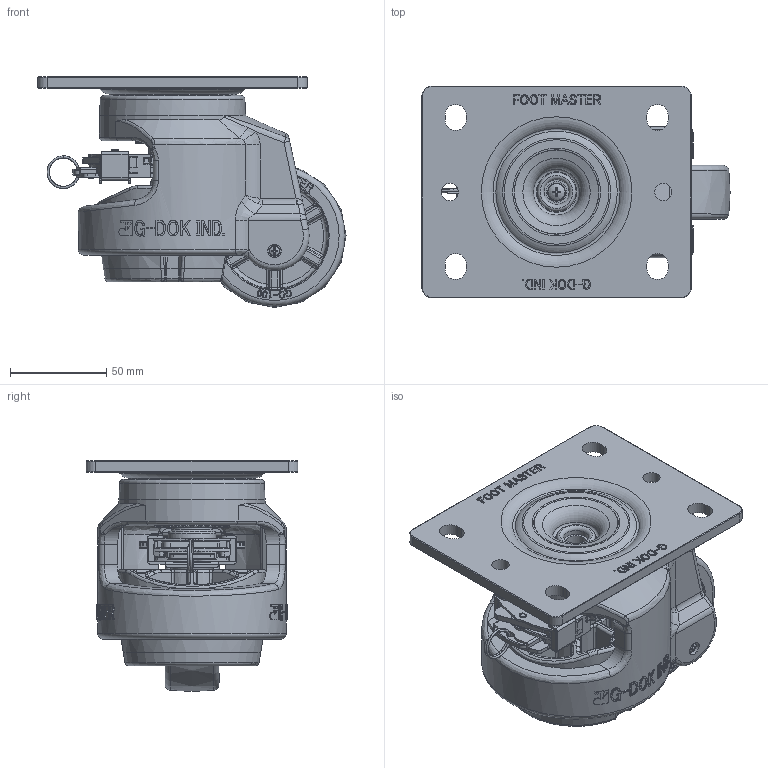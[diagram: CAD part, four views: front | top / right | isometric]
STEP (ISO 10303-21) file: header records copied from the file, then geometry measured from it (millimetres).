
FILE_DESCRIPTION(/* description */ (''),/* implementation_level */ '2;1');
FILE_NAME(/* name */ '\\192.168.10.38\지덕공유\1.기술연구소\2.연구개발 진행중\119.GDR-100 개발건_2025.01.23\3d\홈페이지용\1\2\2.GDR-100-F-NYN-PEU_Shrinkwrap_1.stp',/* time_stamp */ '2025-08-14T19:15:59+09:00',/* author */ ('admin'),/* organization */ (''),/* preprocessor_version */ 'ST-DEVELOPER v18.1',/* originating_system */ 'Autodesk Inventor 2021',/* authorisation */ '');
FILE_SCHEMA (('AUTOMOTIVE_DESIGN { 1 0 10303 214 3 1 1 }'));
Length unit declared in the file: millimetre
Products named in the file (1): 2.GDR-100-F-NYN-PEU_Shrinkwrap_1
Bounding box: 160.2 x 110 x 120.04 mm (x, y, z)
Volume: 639648 mm3; surface area: 150626.1 mm2
Topology: 3 solids, 16 shells, 4051 faces, 10270 edges, 6346 vertices
Faces by surface type: plane 1249, bspline 1245, cylinder 861, torus 335, cone 192, sphere 169
Full cylindrical faces by diameter (mm): 2 x8, 2.3 x6, 2.5 x2, 2.7 x4, 2.9 x2, 3 x2, 3.5 x2, 4 x9, 4.3 x2, 5.5 x2, 6.9 x2, 9 x2, 10.7 x1, 12 x1, 13 x1, 20 x3, 21.249 x2, 39 x1, 49.452 x1, 66.094 x1
Entity records: 152462 total; most frequent: CARTESIAN_POINT 57448, ORIENTED_EDGE 20458, DIRECTION 16909, EDGE_CURVE 10229, AXIS2_PLACEMENT_3D 6403, VERTEX_POINT 6344, EDGE_LOOP 4252, LINE 4103
